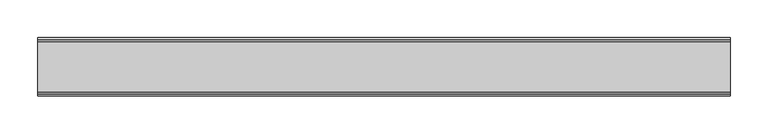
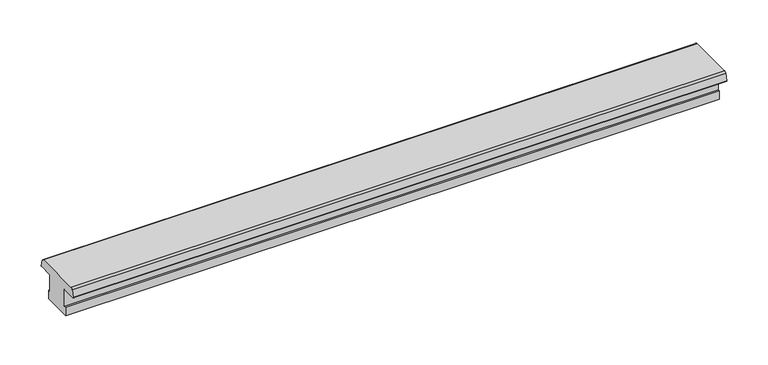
"""IFC4 building model written with IfcOpenShell, lengths in millimetres: proxy geometry, Weiku - Montante - Divisor 02.2.01.040 : Weiku - Montante - Divisor 02.2.01.040."""

import ifcopenshell
import ifcopenshell.guid

model = None  # the IFC model being written
_history = None  # IfcOwnerHistory: only IFC2X3 demands one
_inside = {}  # id of a spatial element -> (the spatial element, [elements in it])
_under = {}  # id of a project, library or spatial element -> (it, [spatial elements below it])
_declared = {}  # id of a project -> (the project, [libraries it declares])
_typed = {}  # id of a type object -> (the type object, [elements of that type])
_made_of = {}  # id of a material, layer set ... -> (it, [elements and type objects made of it])


def new_model(schema):
    """Start an empty IFC model of exactly this schema.

    Asked for "IFC4X3", IfcOpenShell would pick the latest addendum, in which some entities
    have other attributes; the version numbers below select the first issue.
    IFC2X3 requires an IfcOwnerHistory on every rooted entity: one is made here for all.
    """
    global model, _history
    if schema == "IFC4X3":
        model = ifcopenshell.file(schema_version=(4, 3, 0, 0))
    else:
        model = ifcopenshell.file(schema=schema)
    _inside.clear()
    _under.clear()
    _declared.clear()
    _typed.clear()
    _made_of.clear()
    _history = None
    if model.schema == "IFC2X3":
        org = make("IfcOrganization", Name="unknown")
        user = make(
            "IfcPersonAndOrganization",
            ThePerson=make("IfcPerson", FamilyName="unknown"),
            TheOrganization=org,
        )
        app = make(
            "IfcApplication",
            ApplicationDeveloper=org,
            Version="unknown",
            ApplicationFullName="unknown",
            ApplicationIdentifier="unknown",
        )
        _history = make(
            "IfcOwnerHistory",
            OwningUser=user,
            OwningApplication=app,
            ChangeAction="ADDED",
            CreationDate=0,
        )
    return model


def make(cls, **values):
    """One entity of the class cls with the attributes given. An attribute that is None is left unset."""
    return model.create_entity(
        cls, **{name: value for name, value in values.items() if value is not None}
    )


def rooted(cls, **values):
    """An entity with a GlobalId (a new one), such as an element, a storey or a relation."""
    return make(cls, GlobalId=ifcopenshell.guid.new(), OwnerHistory=_history, **values)


def si_unit(unit_type, name, prefix=None):
    """IfcSIUnit, for example si_unit("LENGTHUNIT", "METRE", prefix="MILLI")."""
    return make("IfcSIUnit", UnitType=unit_type, Prefix=prefix, Name=name)


def assignment(units):
    """IfcUnitAssignment: the units of a project."""
    return None if units is None else make("IfcUnitAssignment", Units=units)


def point(xyz):
    """IfcCartesianPoint."""
    return None if xyz is None else make("IfcCartesianPoint", Coordinates=xyz)


def direction(xyz):
    """IfcDirection."""
    return None if xyz is None else make("IfcDirection", DirectionRatios=xyz)


def frame(location, z_axis=None, x_axis=None):
    """IfcAxis2Placement3D, a coordinate frame: its origin and axes. An axis left out is left unset."""
    return make(
        "IfcAxis2Placement3D",
        Location=point(location),
        Axis=direction(z_axis),
        RefDirection=direction(x_axis),
    )


def frame_2d(location, x_axis=None):
    """IfcAxis2Placement2D, a coordinate frame in the plane: its origin and x axis."""
    return make(
        "IfcAxis2Placement2D", Location=point(location), RefDirection=direction(x_axis)
    )


def origin():
    """The frame at (0, 0, 0) with its axes left unset."""
    return frame((0.0, 0.0, 0.0))


def place(relative_to, where):
    """IfcLocalPlacement: puts the frame where relative to a parent placement (None: the world)."""
    return make(
        "IfcLocalPlacement", PlacementRelTo=relative_to, RelativePlacement=where
    )


def context(
    kind, dimensions, precision=None, world=None, true_north=None, identifier=None
):
    """IfcGeometricRepresentationContext, for example the 3D "Model" context."""
    return make(
        "IfcGeometricRepresentationContext",
        ContextIdentifier=identifier,
        ContextType=kind,
        CoordinateSpaceDimension=dimensions,
        Precision=precision,
        WorldCoordinateSystem=world,
        TrueNorth=true_north,
    )


def project(units=None, contexts=None):
    """IfcProject with its units and contexts."""
    return rooted(
        "IfcProject",
        Name="project",
        RepresentationContexts=contexts,
        UnitsInContext=assignment(units),
    )


def spatial(cls, under=None, at=None, **own):
    """A site, building, storey or space (cls), placed at a placement, below another one or the project."""
    s = rooted(cls, ObjectPlacement=at, **own)
    if under is not None:
        _under.setdefault(under.id(), (under, []))[1].append(s)
    return s


def polyline(points):
    """IfcPolyline through the points."""
    return make("IfcPolyline", Points=[point(p) for p in points])


def circle_curve(where, radius):
    """IfcCircle in the frame where."""
    return make("IfcCircle", Position=where, Radius=radius)


def trimmed(basis, trim1, trim2, sense, master):
    """IfcTrimmedCurve: the piece of a basis curve between two trims."""
    return make(
        "IfcTrimmedCurve",
        BasisCurve=basis,
        Trim1=trim1,
        Trim2=trim2,
        SenseAgreement=sense,
        MasterRepresentation=master,
    )


def segment(curve, same_sense, transition):
    """IfcCompositeCurveSegment."""
    return make(
        "IfcCompositeCurveSegment",
        Transition=transition,
        SameSense=same_sense,
        ParentCurve=curve,
    )


def composite_curve(segments, self_intersect=None):
    """IfcCompositeCurve: segments joined end to end."""
    return make("IfcCompositeCurve", Segments=segments, SelfIntersect=self_intersect)


def outline(outer, holes=None, kind="AREA"):
    """IfcArbitraryClosedProfileDef: a profile drawn as a closed curve; with holes, ...WithVoids."""
    if holes is None:
        return make("IfcArbitraryClosedProfileDef", ProfileType=kind, OuterCurve=outer)
    return make(
        "IfcArbitraryProfileDefWithVoids",
        ProfileType=kind,
        OuterCurve=outer,
        InnerCurves=holes,
    )


def extrude(swept, where, along, depth):
    """IfcExtrudedAreaSolid: the profile swept, set in the frame where, extruded along a direction by depth."""
    return make(
        "IfcExtrudedAreaSolid",
        SweptArea=swept,
        Position=where,
        ExtrudedDirection=direction(along),
        Depth=depth,
    )


def shape(context_of_items, identifier, shape_type, items):
    """IfcShapeRepresentation: the items that make up one representation, for example the "Body"."""
    return make(
        "IfcShapeRepresentation",
        ContextOfItems=context_of_items,
        RepresentationIdentifier=identifier,
        RepresentationType=shape_type,
        Items=items,
    )


def source(mapping_origin, context_of_items, identifier, shape_type, items):
    """IfcRepresentationMap: a shape defined once, which mapped items show again and again."""
    return make(
        "IfcRepresentationMap",
        MappingOrigin=mapping_origin,
        MappedRepresentation=shape(context_of_items, identifier, shape_type, items),
    )


def transform(
    local_origin,
    x_axis=None,
    y_axis=None,
    z_axis=None,
    scale=None,
    scale2=None,
    scale3=None,
    uniform=True,
):
    """IfcCartesianTransformationOperator3D, or its non-uniform kind. x_axis, y_axis, z_axis: its Axis1, 2, 3."""
    if uniform:
        return make(
            "IfcCartesianTransformationOperator3D",
            Axis1=direction(x_axis),
            Axis2=direction(y_axis),
            LocalOrigin=point(local_origin),
            Scale=scale,
            Axis3=direction(z_axis),
        )
    return make(
        "IfcCartesianTransformationOperator3DnonUniform",
        Axis1=direction(x_axis),
        Axis2=direction(y_axis),
        LocalOrigin=point(local_origin),
        Scale=scale,
        Axis3=direction(z_axis),
        Scale2=scale2,
        Scale3=scale3,
    )


def mapped(mapping_source, mapping_target):
    """IfcMappedItem: shows the shape of a source again, moved by a transform."""
    return make(
        "IfcMappedItem", MappingSource=mapping_source, MappingTarget=mapping_target
    )


def made_of(thing, what):
    """Note that an element or type object is made of a material, layer set ...; save() writes the relation."""
    if what is not None:
        _made_of.setdefault(what.id(), (what, []))[1].append(thing)
    return thing


def element(
    cls,
    number,
    at=None,
    inside=None,
    cuts=None,
    type_object=None,
    material=None,
    context=None,
    identifier="Body",
    shape_type=None,
    held_by="IfcProductDefinitionShape",
    body=None,
    shapes=None,
    **own,
):
    """One element of the class cls, such as IfcWall. Its Tag is "e" and its number.

    at: its placement. inside: the storey or other place that contains it. cuts: it is an
    opening in that element (IfcRelVoidsElement). A single representation is given by context,
    identifier, shape_type and body (its items); several are given by shapes. held_by: the class
    of the entity that holds the representations. save() writes the other relations.
    """
    e = rooted(cls, Tag="e%d" % number, ObjectPlacement=at, **own)
    if body is not None:
        shapes = [shape(context, identifier, shape_type, body)]
    if shapes is not None:
        e.Representation = make(held_by, Representations=shapes)
    if inside is not None:
        _inside.setdefault(inside.id(), (inside, []))[1].append(e)
    if cuts is not None:
        rooted(
            "IfcRelVoidsElement", RelatingBuildingElement=cuts, RelatedOpeningElement=e
        )
    if type_object is not None:
        _typed.setdefault(type_object.id(), (type_object, []))[1].append(e)
    return made_of(e, material)


def aggregate(whole, parts):
    """IfcRelAggregates: a whole, such as a stair, and the parts it consists of."""
    return rooted("IfcRelAggregates", RelatingObject=whole, RelatedObjects=parts)


def save(model, path):
    """Write the relations noted so far, then the file.

    IfcRelAggregates (storeys below a building ...), IfcRelContainedInSpatialStructure (elements
    in a storey), IfcRelDefinesByType, IfcRelAssociatesMaterial and IfcRelDeclares: one each for
    every whole, place, type object, material and project.
    """
    for whole, parts in _under.values():
        aggregate(whole, parts)
    for where, things in _inside.values():
        rooted(
            "IfcRelContainedInSpatialStructure",
            RelatedElements=things,
            RelatingStructure=where,
        )
    for kind, things in _typed.values():
        rooted("IfcRelDefinesByType", RelatedObjects=things, RelatingType=kind)
    for what, things in _made_of.values():
        rooted("IfcRelAssociatesMaterial", RelatedObjects=things, RelatingMaterial=what)
    for by, libraries in _declared.values():
        rooted("IfcRelDeclares", RelatingContext=by, RelatedDefinitions=libraries)
    model.write(path)


def generic_models_637dba49(model_context):
    return source(origin(), model_context, "Body", "SweptSolid", [
        extrude(outline(composite_curve([segment(trimmed(circle_curve(frame_2d((33.0007245, 47.0)), 3.0), [point((33.0007245, 50.0))], [point((35.898502, 47.7764571))], False, "CARTESIAN"), True, "CONTINUOUS"), segment(polyline([(35.898502, 47.7764571), (38.4496907, 38.2552914)]), True, "CONTINUOUS"), segment(trimmed(circle_curve(frame_2d((37.8701352, 38.1)), 0.6), [point((38.4496907, 38.2552914))], [point((37.8701352, 37.5))], False, "CARTESIAN"), True, "CONTINUOUS"), segment(polyline([(37.8701352, 37.5), (17.5004577, 37.5), (17.5004577, 12.168694), (20.5, 12.972419), (20.5, 0.0), (-20.5, 0.0), (-20.5, 12.972419), (-17.5004577, 12.168694), (-17.5004577, 37.5), (-37.8701352, 37.5)]), True, "CONTINUOUS"), segment(trimmed(circle_curve(frame_2d((-37.8701352, 38.1)), 0.6), [point((-37.8701352, 37.5))], [point((-38.4496907, 38.2552914))], False, "CARTESIAN"), True, "CONTINUOUS"), segment(polyline([(-38.4496907, 38.2552914), (-35.898502, 47.7764571)]), True, "CONTINUOUS"), segment(trimmed(circle_curve(frame_2d((-33.0007245, 47.0)), 3.0), [point((-35.898502, 47.7764571))], [point((-33.0007245, 50.0))], False, "CARTESIAN"), True, "CONTINUOUS"), segment(polyline([(-33.0007245, 50.0), (33.0007245, 50.0)]), True, "CONTINUOUS")], self_intersect=False)), frame((-456.5, 0.0, 0.0), z_axis=(1.0, 0.0, 0.0), x_axis=(0.0, 1.0, 0.0)), (0.0, 0.0, 1.0), 913.0),
    ])


if __name__ == "__main__":
    model = new_model("IFC4")
    model_context = context("Model", 3, world=origin())
    ifc_project = project(units=[si_unit("LENGTHUNIT", "METRE", prefix="MILLI")], contexts=[model_context])
    site = spatial("IfcSite", under=ifc_project)
    building = spatial("IfcBuilding", under=site)
    placement = place(None, origin())
    generic_models_shape = generic_models_637dba49(model_context)
    element("IfcBuildingElementProxy", 1, Name="Weiku - Montante - Divisor 02.2.01.040 : Weiku - Montante - Divisor 02.2.01.040", ObjectType="Weiku - Montante - Divisor 02.2.01.040 : Weiku - Montante - Divisor 02.2.01.040", at=placement, inside=building, context=model_context, shape_type="MappedRepresentation", body=[
        mapped(generic_models_shape, transform((0.0, 0.0, 0.0), x_axis=(1.0, 0.0, 0.0), y_axis=(0.0, 1.0, 0.0), z_axis=(0.0, 0.0, 1.0))),
    ])
    save(model, "model.ifc")
